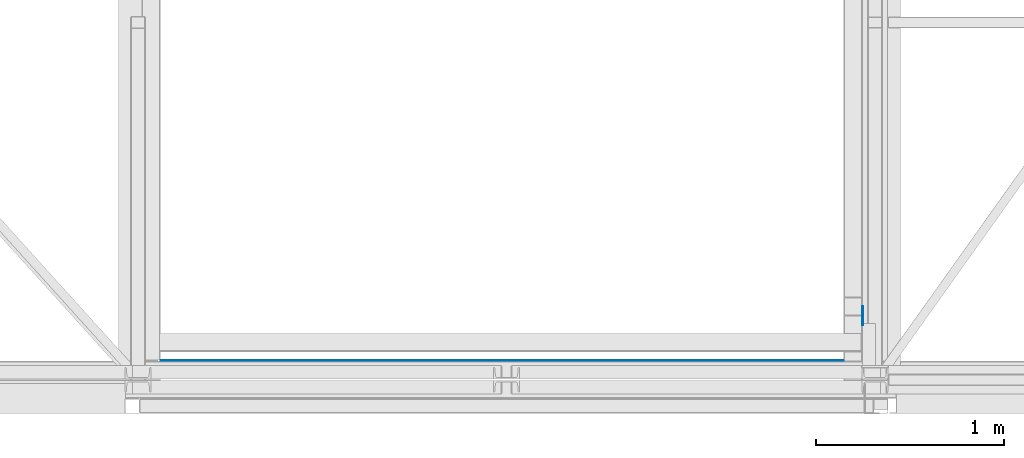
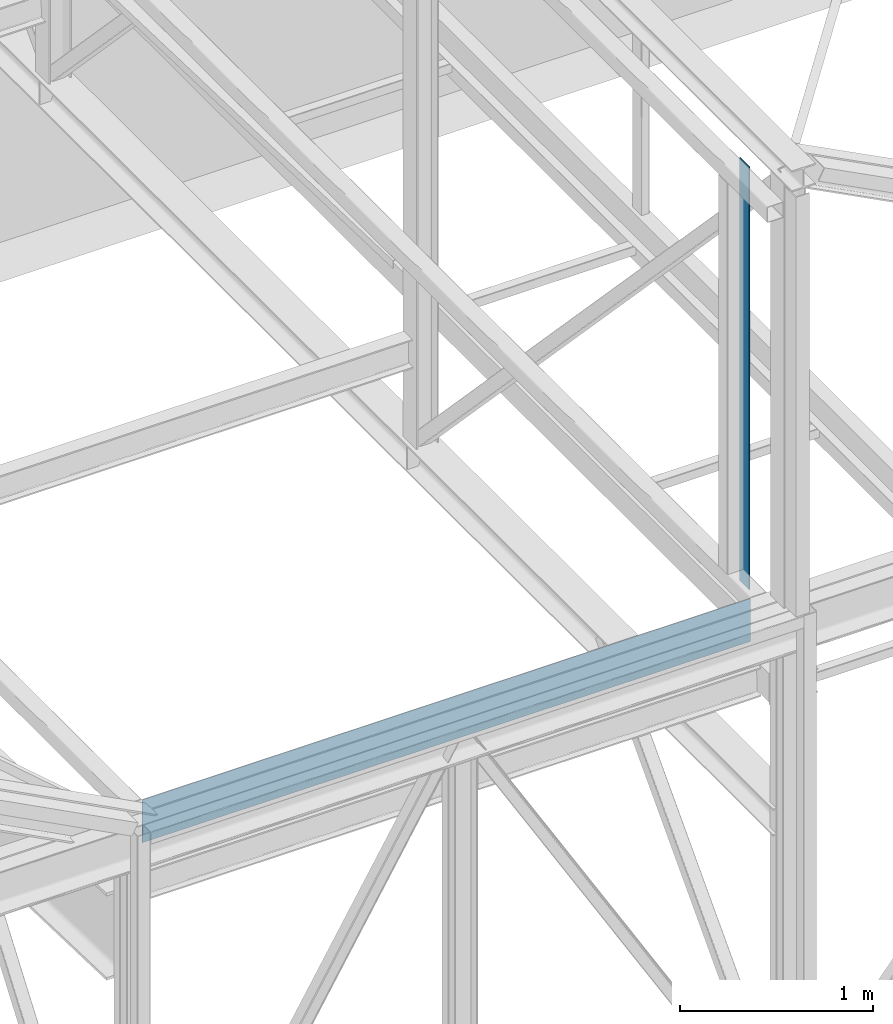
# One storey, part 53 of 123: 2 discrete accessories, 2 elements without a shape of their own.
"""IFC2X3 building model written with IfcOpenShell, lengths in millimetres."""

from ifc_helpers import new_model, si_unit, frame, origin_with_axes, place, context, subcontext, project, spatial, polyline, outline, extrude, material, type_object, element, aggregate, save


model = new_model("IFC2X3")

# Units and contexts
model_context = context("Model", 3, precision=1e-05, world=origin_with_axes())
body_context = subcontext(model_context, "Body", "Model", "MODEL_VIEW")
ifc_project = project(units=[si_unit("LENGTHUNIT", "METRE", prefix="MILLI"), si_unit("AREAUNIT", "SQUARE_METRE"), si_unit("VOLUMEUNIT", "CUBIC_METRE"), si_unit("MASSUNIT", "GRAM", prefix="KILO"), si_unit("TIMEUNIT", "SECOND"), si_unit("PLANEANGLEUNIT", "RADIAN"), si_unit("SOLIDANGLEUNIT", "STERADIAN"), si_unit("THERMODYNAMICTEMPERATUREUNIT", "DEGREE_CELSIUS"), si_unit("LUMINOUSINTENSITYUNIT", "LUMEN")], contexts=[model_context])

# Site, building, storey
site_placement = place(None, origin_with_axes())
site = spatial("IfcSite", under=ifc_project, at=site_placement, Name="Undefined", CompositionType="ELEMENT")
building_placement = place(site_placement, origin_with_axes())
building = spatial("IfcBuilding", under=site, at=building_placement, Name="Undefined", CompositionType="ELEMENT")
storey_placement = place(building_placement, origin_with_axes())
storey = spatial("IfcBuildingStorey", under=building, at=storey_placement, Name="Undefined", CompositionType="ELEMENT", Elevation=0.0)

# Assembly, discrete accessory
assembly_1_placement = place(storey_placement, origin_with_axes())
assembly_1 = element("IfcElementAssembly", 1, at=assembly_1_placement, inside=storey, Name="Steel Assembly", AssemblyPlace="NOTDEFINED", PredefinedType="RIGID_FRAME")
ifc_material = material(Name="STEEL/S235-E24")
discrete_accessory_type = type_object("IfcDiscreteAccessoryType", Name="FEUILLURE")
discrete_accessory_1_placement = place(assembly_1_placement, frame((23406.0001056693, 340.000078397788, 8450.0), z_axis=(1.0, 0.0, 0.0), x_axis=(0.0, 0.0, 1.0)))
discrete_accessory_1 = element("IfcDiscreteAccessory", 2, at=discrete_accessory_1_placement, type_object=discrete_accessory_type, material=ifc_material, Name="FEUILLURE", ObjectType="PL100*5", context=body_context, shape_type="SweptSolid", body=[
    extrude(outline(polyline([(0.0, 50.0), (2670.0, 50.0), (2670.0, -50.0), (0.0, -50.0), (0.0, 50.0)])), frame((0.0, 0.0, -2.5), z_axis=(0.0, 0.0, 1.0), x_axis=(1.0, 0.0, 0.0)), (0.0, 0.0, 1.0), 5.0),
])
aggregate(assembly_1, [discrete_accessory_1])

assembly_2_placement = place(storey_placement, origin_with_axes())
assembly_2 = element("IfcElementAssembly", 3, at=assembly_2_placement, inside=storey, Name="Steel Assembly", AssemblyPlace="NOTDEFINED", PredefinedType="RIGID_FRAME")
discrete_accessory_2_placement = place(assembly_2_placement, frame((19669.9999999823, 102.5, 8410.0), z_axis=(0.0, -1.0, 0.0), x_axis=(1.0, 0.0, 0.0)))
discrete_accessory_2 = element("IfcDiscreteAccessory", 4, at=discrete_accessory_2_placement, type_object=discrete_accessory_type, material=ifc_material, Name="FEUILLURE", ObjectType="PL5*270", context=body_context, shape_type="SweptSolid", body=[
    extrude(outline(polyline([(0.0, -135.0), (0.0, 135.0), (3633.50000001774, 135.0), (3633.50000001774, -135.0), (0.0, -135.0)])), frame((0.0, 0.0, -2.5), z_axis=(0.0, 0.0, 1.0), x_axis=(1.0, 0.0, 0.0)), (0.0, 0.0, 1.0), 5.0),
])
aggregate(assembly_2, [discrete_accessory_2])

save(model, "model.ifc")
